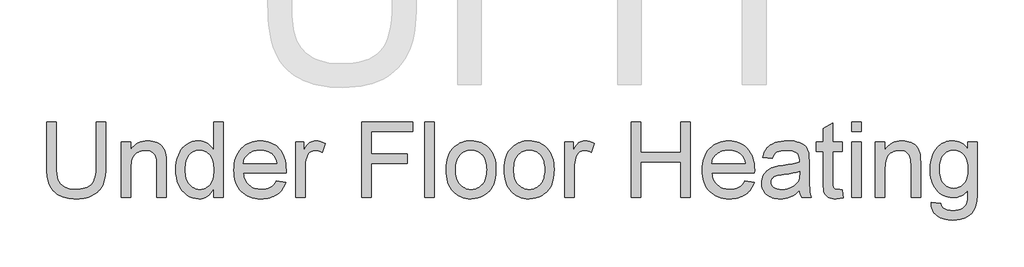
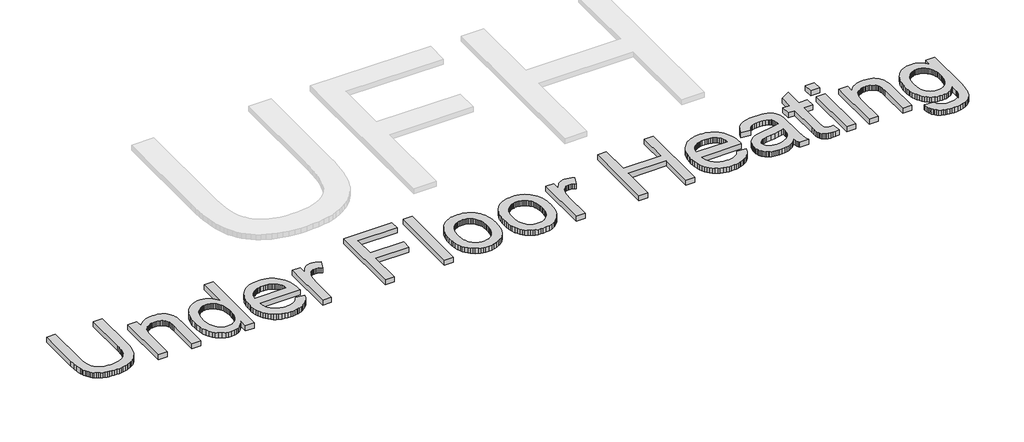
# One storey, part 26 of 26: 1 proxy.
"""IFC4 building model written with IfcOpenShell, lengths in millimetres."""

from ifc_helpers import new_model, si_unit, origin, origin_with_axes, place, context, project, spatial, polyline, outline, extrude, element, save

model = new_model("IFC4")

# Units and contexts
model_context = context("Model", 3, world=origin())
ifc_project = project(units=[si_unit("LENGTHUNIT", "METRE", prefix="MILLI")], contexts=[model_context])

# Site, building, storey
site = spatial("IfcSite", under=ifc_project)
building = spatial("IfcBuilding", under=site)
storey = spatial("IfcBuildingStorey", under=building, Name="Superpipe UFH", Elevation=0.0)

# Proxy
placement = place(None, origin())
element("IfcBuildingElementProxy", 1, Name="2000mm Arial", ObjectType="2000mm Arial", at=placement, inside=storey, context=model_context, shape_type="SweptSolid", body=[
    extrude(outline(polyline([(704.812307, 50255.293081), (955.9530823, 50255.293081), (955.9530823, 49096.2195415), (951.6917826, 48952.6995782), (938.9078832, 48824.7839428), (917.6013843, 48712.4726353), (903.7521601, 48662.1686046), (887.7722859, 48615.7656558), (869.0179684, 48572.3479162), (846.8454139, 48530.9995128), (821.2546226, 48491.7204456), (792.2455945, 48454.5107146), (759.8183295, 48419.3703199), (723.9728275, 48386.2992613), (684.7090888, 48355.297539), (642.0271131, 48326.365153), (595.903908, 48300.2110424), (546.3164807, 48277.5441465), (493.2648313, 48258.3644654), (436.7489598, 48242.6719991), (376.7688662, 48230.4667474), (313.3245504, 48221.7487106), (246.4160126, 48216.5178885), (176.0432526, 48214.7742811), (107.4984062, 48216.2917943), (42.1495347, 48220.844334), (-20.0033619, 48228.4319002), (-78.9602838, 48239.0544928), (-134.7212308, 48252.7121118), (-187.2862029, 48269.4047574), (-236.6552003, 48289.1324294), (-282.8282228, 48311.8951278), (-325.8091025, 48337.5357365), (-365.6016717, 48365.897139), (-402.2059302, 48396.9793355), (-435.6218781, 48430.7823259), (-465.8495154, 48467.3061103), (-492.888842, 48506.5506885), (-516.739858, 48548.5160607), (-537.4025634, 48593.2022268), (-555.2793291, 48641.352615), (-570.7725261, 48693.7106536), (-594.6082137, 48811.0496816), (-608.9096262, 48945.2193109), (-613.6767638, 49096.2195415), (-613.6767638, 50255.293081), (-362.5359884, 50255.293081), (-362.5359884, 49105.0487094), (-359.4396483, 48983.6323226), (-350.1506279, 48879.3531054), (-334.6689272, 48792.2110578), (-312.9945464, 48722.2061798), (-283.7785846, 48664.2800939), (-245.6721412, 48613.3744229), (-198.6752164, 48569.4891665), (-142.7878099, 48532.6243249), (-79.0829111, 48503.43902), (-8.633509, 48482.5923736), (68.5603963, 48470.0843857), (152.4988049, 48465.9150565), (224.3814139, 48467.9767285), (290.9144056, 48474.1617445), (352.0977799, 48484.4701046), (407.9315369, 48498.9018087), (458.4156765, 48517.4568568), (503.5501988, 48540.135249), (543.3351037, 48566.9369852), (577.7703913, 48597.8620654), (607.5458403, 48634.6502649), (633.3512294, 48679.041359), (655.1865587, 48731.0353477), (673.051828, 48790.6322309), (686.9470376, 48857.8320087), (696.8721872, 48932.634681), (702.827277, 49015.0402479), (704.812307, 49105.0487094), (704.812307, 50255.293081)])), origin_with_axes(), (0.0, 0.0, 1.0), 150.0),
    extrude(outline(polyline([(1364.0568423, 48246.166878), (1364.0568423, 49721.6189333), (1615.1976177, 49721.6189333), (1615.1976177, 49515.605016), (1656.6303274, 49571.2471678), (1702.4469642, 49619.470366), (1752.6475281, 49660.2746106), (1807.2320192, 49693.6599017), (1866.2004373, 49719.6262392), (1929.5527826, 49738.1736231), (1997.2890549, 49749.3020535), (2069.4092544, 49753.0115303), (2132.6083155, 49750.022489), (2193.2015458, 49741.0553654), (2251.1889453, 49726.1101594), (2306.570514, 49705.1868709), (2357.2462588, 49679.4044744), (2401.1161867, 49649.8819443), (2438.1802977, 49616.6192805), (2468.4385918, 49579.6164832), (2493.2859549, 49538.9195375), (2514.1172729, 49494.5744286), (2530.9325458, 49446.5811567), (2543.7317735, 49394.9397216), (2553.6645874, 49299.6582849), (2556.9755253, 49152.1376048), (2556.9755253, 48246.166878), (2305.83475, 48246.166878), (2305.83475, 49118.2924612), (2304.0259968, 49187.9141288), (2298.5997374, 49248.1548055), (2289.5559717, 49299.0144914), (2276.8946997, 49340.4931863), (2259.6502312, 49375.4266475), (2236.8568759, 49406.6506318), (2208.5146338, 49434.1651394), (2174.623505, 49457.9701701), (2136.3484491, 49477.176676), (2094.8544257, 49490.8956087), (2050.1414349, 49499.1269683), (2002.2094766, 49501.8707549), (1963.4017582, 49500.330249), (1925.9506047, 49495.7087315), (1889.856016, 49488.0062022), (1855.1179922, 49477.2226612), (1821.7365333, 49463.3581085), (1789.7116392, 49446.4125441), (1759.0433099, 49426.385968), (1729.7315455, 49403.2783802), (1702.8876562, 49375.8635073), (1679.6229521, 49342.9150761), (1659.9374333, 49304.4330866), (1643.8310997, 49260.4175387), (1631.3039513, 49210.8684325), (1622.3559882, 49155.7857679), (1616.9872103, 49095.169545), (1615.1976177, 49029.0197637), (1615.1976177, 48246.166878), (1364.0568423, 48246.166878)])), origin_with_axes(), (0.0, 0.0, 1.0), 150.0),
    extrude(outline(polyline([(3812.6794022, 48246.166878), (3812.6794022, 48483.0828829), (3777.0944834, 48420.1980544), (3737.5395047, 48365.6978696), (3694.0144661, 48319.5823287), (3646.5193677, 48281.8514315), (3595.0542094, 48252.5051782), (3539.6189913, 48231.5435687), (3480.2137133, 48218.966603), (3416.8383754, 48214.7742811), (3333.9422992, 48220.844334), (3254.4797882, 48239.0544928), (3178.4508425, 48269.4047574), (3105.8554622, 48311.8951278), (3038.9622527, 48365.2533455), (2980.0398198, 48428.207152), (2929.0881635, 48500.7565471), (2886.1072837, 48582.9015309), (2851.9862286, 48673.078605), (2827.6140465, 48769.7242708), (2812.9907372, 48872.8385284), (2808.1163007, 48982.4213777), (2812.6075267, 49089.9962044), (2826.0812048, 49192.4819969), (2848.5373349, 49289.8787552), (2879.9759171, 49382.1864791), (2920.3816229, 49466.7073675), (2943.941399, 49505.0360729), (2969.7391239, 49540.743619), (2997.7747977, 49573.830006), (3028.0484202, 49604.2952337), (3060.5599915, 49632.1393022), (3095.3095116, 49657.3622115), (3169.1464937, 49699.2087885), (3247.183462, 49729.0992006), (3329.4204163, 49747.0334478), (3415.8573568, 49753.0115303), (3479.0717463, 49748.7349021), (3538.7299431, 49735.9050175), (3594.8319474, 49714.5218765), (3647.3777591, 49684.5854792), (3695.7848982, 49647.8126081), (3739.4708852, 49605.9200459), (3778.4357198, 49558.9077926), (3812.6794022, 49506.7758482), (3812.6794022, 50255.293081), (4063.8201776, 50255.293081), (4063.8201776, 48246.166878), (3812.6794022, 48246.166878)]), holes=[polyline([(3059.2570761, 48983.4023963), (3061.0275082, 48920.4600862), (3066.3388045, 48861.6181275), (3075.190965, 48806.8765202), (3087.5839897, 48756.2352643), (3103.5178786, 48709.6943598), (3122.9926318, 48667.2538067), (3146.0082491, 48628.9136051), (3172.5647306, 48594.6737548), (3201.5277735, 48564.4959349), (3231.763075, 48538.3418243), (3263.270635, 48516.211423), (3296.0504537, 48498.104731), (3330.1025308, 48484.0217484), (3365.4268666, 48473.9624751), (3402.0234609, 48467.9269111), (3439.8923138, 48465.9150565), (3478.033246, 48467.8349406), (3514.7103145, 48473.5945931), (3549.9235193, 48483.1940139), (3583.6728602, 48496.6332031), (3615.9583374, 48513.9121605), (3646.7799508, 48535.0308863), (3676.1377004, 48559.9893804), (3704.0315863, 48588.7876429), (3729.4959182, 48621.5329725), (3751.5650058, 48658.3326684), (3770.2388491, 48699.1867303), (3785.5174482, 48744.0951585), (3797.4008031, 48793.0579528), (3805.8889137, 48846.0751132), (3810.9817801, 48903.1466398), (3812.6794022, 48964.2725326), (3810.9511233, 49031.3726757), (3805.7662864, 49093.8589654), (3797.1248916, 49151.7314018), (3785.0269389, 49204.9899848), (3769.4724283, 49253.6347144), (3750.4613598, 49297.6655907), (3727.9937333, 49337.0826137), (3702.069549, 49371.8857833), (3673.6161759, 49402.351011), (3643.5609834, 49428.7542083), (3611.9039712, 49451.0953753), (3578.6451396, 49469.374512), (3543.7844885, 49483.5916182), (3507.3220178, 49493.7466942), (3469.2577276, 49499.8397397), (3429.5916179, 49501.8707549), (3390.80306, 49499.9202139), (3353.6546427, 49494.0685909), (3318.146366, 49484.3158859), (3284.2782298, 49470.662099), (3252.0502342, 49453.10723), (3221.4623791, 49431.6512791), (3192.5146646, 49406.2942461), (3165.2070907, 49377.0361312), (3140.375056, 49343.5780301), (3118.8539593, 49305.6210389), (3100.6438006, 49263.1651574), (3085.7445797, 49216.2103856), (3074.1562969, 49164.7567237), (3065.878952, 49108.8041715), (3060.9125451, 49048.352729), (3059.2570761, 48983.4023963)])]), origin_with_axes(), (0.0, 0.0, 1.0), 150.0),
    extrude(outline(polyline([(5473.5439831, 48685.6632349), (5719.7796652, 48654.270638), (5702.5543572, 48603.4952585), (5682.0257755, 48555.6476065), (5658.19392, 48510.727682), (5631.0587907, 48468.7354851), (5600.6203877, 48429.6710157), (5566.878711, 48393.5342739), (5529.8337605, 48360.3252596), (5489.4855362, 48330.0439729), (5446.0333077, 48303.0276389), (5399.6763442, 48279.6134827), (5350.4146457, 48259.8015045), (5298.2482124, 48243.591704), (5243.1770441, 48230.9840815), (5185.201141, 48221.9786368), (5124.3205029, 48216.57537), (5060.5351299, 48214.7742811), (4980.4978033, 48217.8821175), (4904.7064481, 48227.2056268), (4833.1610642, 48242.744809), (4765.8616517, 48264.4996641), (4702.8082106, 48292.470192), (4644.0007408, 48326.6563929), (4589.4392424, 48367.0582666), (4539.1237154, 48413.6758131), (4493.9432078, 48465.9035602), (4454.786768, 48523.1360351), (4421.6543958, 48585.3732381), (4394.5460913, 48652.615169), (4373.4618544, 48724.8618279), (4358.4016852, 48802.1132148), (4349.3655837, 48884.3693297), (4346.3535499, 48971.6301725), (4349.3962406, 49061.860896), (4358.5243126, 49146.8952864), (4373.7377659, 49226.7333435), (4395.0366006, 49301.3750675), (4422.4208166, 49370.8204583), (4455.890414, 49435.0695159), (4495.4453926, 49494.1222404), (4541.0857527, 49547.9786316), (4591.5775565, 49596.0332172), (4645.6868666, 49637.6805248), (4703.413683, 49672.9205542), (4764.7580057, 49701.7533056), (4829.7198347, 49724.1787789), (4898.29917, 49740.1969741), (4970.4960115, 49749.8078912), (5046.3103594, 49753.0115303), (5119.6453359, 49749.8155554), (5189.5544112, 49740.2276309), (5256.0375856, 49724.2477568), (5319.0948588, 49701.8759329), (5378.726231, 49673.1121594), (5434.931702, 49637.9564363), (5487.711272, 49596.4087634), (5537.0649409, 49548.4691409), (5581.7281144, 49494.735377), (5620.4361981, 49435.8052799), (5653.189192, 49371.6788496), (5679.9870961, 49302.3560862), (5700.8299104, 49227.8369895), (5715.7176348, 49148.1215597), (5724.6502695, 49063.2097967), (5727.6278144, 48973.1017005), (5726.1562865, 48905.4114134), (4597.4943253, 48905.4114134), (4602.970402, 48853.7469857), (4612.0409925, 48805.1942265), (4624.7060966, 48759.7531359), (4640.9657144, 48717.4237138), (4660.8198458, 48678.2059603), (4684.2684909, 48642.0998753), (4711.3116496, 48609.1054589), (4741.949322, 48579.222711), (4775.3844304, 48552.6662295), (4810.8198972, 48529.6506121), (4848.2557223, 48510.175859), (4887.6919058, 48494.2419701), (4929.1284476, 48481.8489454), (4972.5653478, 48472.9967849), (5018.0026063, 48467.6854886), (5065.4402231, 48465.9150565), (5134.9086065, 48469.1953376), (5199.1040147, 48479.036181), (5258.0264476, 48495.4375866), (5311.6759052, 48518.3995544), (5360.0523876, 48548.5352212), (5403.1558947, 48586.4577235), (5440.9864265, 48632.1670615), (5473.5439831, 48685.6632349)]), holes=[polyline([(4597.4943253, 49156.5521887), (5476.4870391, 49156.5521887), (5463.5805124, 49227.6147275), (5442.5192682, 49289.2349617), (5413.3033064, 49341.4128913), (5375.9326271, 49384.1485164), (5342.8692327, 49411.7396661), (5307.4452623, 49435.6519957), (5269.6607157, 49455.8855055), (5229.515593, 49472.4401953), (5187.0098941, 49485.3160651), (5142.1436191, 49494.513115), (5094.916768, 49500.0313449), (5045.3293407, 49501.8707549), (4957.0223335, 49495.9999714), (4915.6164485, 49488.661492), (4876.0423093, 49478.3876209), (4838.2999158, 49465.178358), (4802.3892682, 49449.0337033), (4768.3103663, 49429.9536569), (4736.0632101, 49407.9382188), (4706.4831984, 49383.4625698), (4680.4057299, 49357.0018909), (4657.8308046, 49328.556182), (4638.7584224, 49298.1254432), (4623.1885834, 49265.7096745), (4611.1212875, 49231.3088758), (4602.5565348, 49194.9230473), (4597.4943253, 49156.5521887)])]), origin_with_axes(), (0.0, 0.0, 1.0), 150.0),
    extrude(outline(polyline([(5978.7685898, 48246.166878), (5978.7685898, 49721.6189333), (6198.5167683, 49721.6189333), (6198.5167683, 49503.3422829), (6239.9034927, 49573.1172346), (6279.6960619, 49629.8936892), (6317.8944757, 49673.6716466), (6354.4987342, 49704.4511069), (6391.1643064, 49725.6962921), (6429.5466612, 49740.8714244), (6469.6457987, 49749.9765038), (6511.4617188, 49753.0115303), (6573.7564034, 49748.1677507), (6636.5415972, 49733.6364118), (6699.8173004, 49709.4175138), (6763.5835129, 49675.5110566), (6679.706418, 49450.3672756), (6635.5605785, 49472.9000478), (6591.4147391, 49488.9948851), (6547.2688997, 49498.6517874), (6503.1230603, 49501.8707549), (6464.6334065, 49498.7744148), (6428.1364469, 49489.4853944), (6393.6321815, 49474.0036937), (6361.1206101, 49452.3293129), (6331.8280063, 49425.1673589), (6306.9806432, 49393.222939), (6286.5785209, 49356.4960531), (6270.6216393, 49314.9867013), (6252.8100194, 49246.4380229), (6240.0874337, 49174.7010338), (6232.4538823, 49099.7757342), (6229.9093652, 49021.6621238), (6229.9093652, 48246.166878), (5978.7685898, 48246.166878)])), origin_with_axes(), (0.0, 0.0, 1.0), 150.0),
    extrude(outline(polyline([(7736.7540174, 48246.166878), (7736.7540174, 50255.293081), (9086.6356851, 50255.293081), (9086.6356851, 50004.1523056), (7987.8947928, 50004.1523056), (7987.8947928, 49407.6929641), (8929.6727005, 49407.6929641), (8929.6727005, 49156.5521887), (7987.8947928, 49156.5521887), (7987.8947928, 48246.166878), (7736.7540174, 48246.166878)])), origin_with_axes(), (0.0, 0.0, 1.0), 150.0),
    extrude(outline(polyline([(9400.5616543, 48246.166878), (9400.5616543, 50255.293081), (9651.7024297, 50255.293081), (9651.7024297, 48246.166878), (9400.5616543, 48246.166878)])), origin_with_axes(), (0.0, 0.0, 1.0), 150.0),
    extrude(outline(polyline([(9965.6283989, 48983.8929057), (9969.0236431, 49082.7381993), (9979.2093759, 49174.9769453), (9996.1855971, 49260.6091439), (10019.9523068, 49339.634795), (10050.5095051, 49412.0538986), (10087.8571918, 49477.8664547), (10131.995367, 49537.0724633), (10182.9240307, 49589.6719244), (10229.5377452, 49627.9546445), (10278.6346631, 49661.133002), (10330.2147845, 49689.2069967), (10384.2781094, 49712.1766288), (10440.8246377, 49730.0418982), (10499.8543695, 49742.8028049), (10561.3673048, 49750.4593489), (10625.3634436, 49753.0115303), (10696.2995229, 49749.9036938), (10763.917, 49740.5801845), (10828.215875, 49725.0410023), (10889.1961478, 49703.2861472), (10946.8578184, 49675.3156193), (11001.2008869, 49641.1294185), (11052.2253532, 49600.7275448), (11099.9312173, 49554.1099982), (11143.0998702, 49502.0125427), (11180.5127027, 49445.1709424), (11212.1697148, 49383.5851971), (11238.0709065, 49317.255307), (11258.2162779, 49246.1812719), (11272.6058288, 49170.363092), (11281.2395594, 49089.8007671), (11284.1174696, 49004.4942974), (11279.0284353, 48870.064085), (11263.7613325, 48750.7783481), (11252.3110054, 48696.8146579), (11238.3161612, 48646.6370866), (11221.7767998, 48600.2456342), (11202.6929213, 48557.6403006), (11157.336137, 48480.768292), (11131.1743622, 48445.7466925), (11102.6903323, 48413.0013628), (11071.8840473, 48382.532303), (11038.7555072, 48354.339513), (11003.304712, 48328.4229929), (10965.5316618, 48304.7827426), (10885.8698814, 48265.4040407), (10802.6212516, 48237.2763965), (10715.7857723, 48220.3998099), (10625.3634436, 48214.7742811), (10553.3083899, 48217.8706212), (10484.7865362, 48227.1596416), (10419.7978824, 48242.6413422), (10358.3424287, 48264.3157231), (10300.420175, 48292.1827842), (10246.0311213, 48326.2425256), (10195.1752676, 48366.4949473), (10147.8526138, 48412.9400492), (10105.1438134, 48465.2099493), (10068.1295198, 48522.9367657), (10036.8097328, 48586.1204984), (10011.1844526, 48654.7611473), (9991.2536791, 48728.8587125), (9977.0174123, 48808.413194), (9968.4756522, 48893.4245917), (9965.6283989, 48983.8929057)]), holes=[polyline([(10216.7691743, 48984.383415), (10218.5855916, 48921.4334407), (10224.0348437, 48862.5684893), (10233.1169304, 48807.788561), (10245.8318519, 48757.0936556), (10262.179608, 48710.4837733), (10282.1601989, 48667.9589139), (10305.7736245, 48629.5190775), (10333.0198847, 48595.1642641), (10363.0175958, 48564.8714811), (10394.8853736, 48538.6177358), (10428.6232182, 48516.4030282), (10464.2311297, 48498.2273584), (10501.7091079, 48484.0907263), (10541.057153, 48473.9931319), (10582.2752649, 48467.9345753), (10625.3634436, 48465.9150565), (10668.221696, 48467.9460716), (10709.2405385, 48474.0391172), (10748.419971, 48484.1941931), (10785.7599935, 48498.4112994), (10821.260606, 48516.690436), (10854.9218086, 48539.031603), (10886.7436011, 48565.4348004), (10916.7259837, 48595.9000281), (10943.972244, 48630.5269209), (10967.5856696, 48669.4151135), (10987.5662604, 48712.5646058), (11003.9140166, 48759.9753979), (11016.6289381, 48811.6474898), (11025.7110248, 48867.5808815), (11031.1602769, 48927.775573), (11032.9766942, 48992.2315642), (11031.1487806, 49053.1122023), (11025.6650396, 49110.1837289), (11016.5254712, 49163.446144), (11003.7300756, 49212.8994477), (10987.2788526, 49258.5436398), (10967.1718023, 49300.3787204), (10943.4089247, 49338.4046896), (10915.9902198, 49372.6215472), (10885.8583851, 49402.9143303), (10853.9561183, 49429.1680756), (10820.2834194, 49451.3827831), (10784.8402885, 49469.558453), (10747.6267254, 49483.6950851), (10708.6427302, 49493.7926794), (10667.8883029, 49499.851236), (10625.3634436, 49501.8707549), (10582.2752649, 49499.8589002), (10541.057153, 49493.8233362), (10501.7091079, 49483.7640629), (10464.2311297, 49469.6810803), (10428.6232182, 49451.5743884), (10394.8853736, 49429.4439871), (10363.0175958, 49403.2898765), (10333.0198847, 49373.1120566), (10305.7736245, 49338.8722063), (10282.1601989, 49300.5320046), (10262.179608, 49258.0914515), (10245.8318519, 49211.550547), (10233.1169304, 49160.9092911), (10224.0348437, 49106.1676838), (10218.5855916, 49047.3257251), (10216.7691743, 48984.383415)])]), origin_with_axes(), (0.0, 0.0, 1.0), 150.0),
    extrude(outline(polyline([(11503.865648, 48983.8929057), (11507.2608923, 49082.7381993), (11517.446625, 49174.9769453), (11534.4228463, 49260.6091439), (11558.189556, 49339.634795), (11588.7467542, 49412.0538986), (11626.0944409, 49477.8664547), (11670.2326162, 49537.0724633), (11721.1612799, 49589.6719244), (11767.7749943, 49627.9546445), (11816.8719123, 49661.133002), (11868.4520337, 49689.2069967), (11922.5153586, 49712.1766288), (11979.0618869, 49730.0418982), (12038.0916187, 49742.8028049), (12099.604554, 49750.4593489), (12163.6006927, 49753.0115303), (12234.536772, 49749.9036938), (12302.1542492, 49740.5801845), (12366.4531241, 49725.0410023), (12427.4333969, 49703.2861472), (12485.0950676, 49675.3156193), (12539.4381361, 49641.1294185), (12590.4626024, 49600.7275448), (12638.1684665, 49554.1099982), (12681.3371194, 49502.0125427), (12718.7499519, 49445.1709424), (12750.406964, 49383.5851971), (12776.3081557, 49317.255307), (12796.453527, 49246.1812719), (12810.843078, 49170.363092), (12819.4768086, 49089.8007671), (12822.3547188, 49004.4942974), (12817.2656845, 48870.064085), (12801.9985817, 48750.7783481), (12790.5482546, 48696.8146579), (12776.5534104, 48646.6370866), (12760.014049, 48600.2456342), (12740.9301705, 48557.6403006), (12695.5733862, 48480.768292), (12669.4116114, 48445.7466925), (12640.9275815, 48413.0013628), (12610.1212965, 48382.532303), (12576.9927564, 48354.339513), (12541.5419612, 48328.4229929), (12503.7689109, 48304.7827426), (12424.1071306, 48265.4040407), (12340.8585007, 48237.2763965), (12254.0230215, 48220.3998099), (12163.6006927, 48214.7742811), (12091.545639, 48217.8706212), (12023.0237853, 48227.1596416), (11958.0351316, 48242.6413422), (11896.5796779, 48264.3157231), (11838.6574242, 48292.1827842), (11784.2683705, 48326.2425256), (11733.4125167, 48366.4949473), (11686.089863, 48412.9400492), (11643.3810626, 48465.2099493), (11606.366769, 48522.9367657), (11575.046982, 48586.1204984), (11549.4217018, 48654.7611473), (11529.4909283, 48728.8587125), (11515.2546615, 48808.413194), (11506.7129014, 48893.4245917), (11503.865648, 48983.8929057)]), holes=[polyline([(11755.0064234, 48984.383415), (11756.8228408, 48921.4334407), (11762.2720928, 48862.5684893), (11771.3541796, 48807.788561), (11784.069101, 48757.0936556), (11800.4168572, 48710.4837733), (11820.3974481, 48667.9589139), (11844.0108736, 48629.5190775), (11871.2571339, 48595.1642641), (11901.2548449, 48564.8714811), (11933.1226228, 48538.6177358), (11966.8604674, 48516.4030282), (12002.4683788, 48498.2273584), (12039.9463571, 48484.0907263), (12079.2944022, 48473.9931319), (12120.512514, 48467.9345753), (12163.6006927, 48465.9150565), (12206.4589452, 48467.9460716), (12247.4777876, 48474.0391172), (12286.6572201, 48484.1941931), (12323.9972426, 48498.4112994), (12359.4978552, 48516.690436), (12393.1590577, 48539.031603), (12424.9808503, 48565.4348004), (12454.9632329, 48595.9000281), (12482.2094932, 48630.5269209), (12505.8229187, 48669.4151135), (12525.8035096, 48712.5646058), (12542.1512658, 48759.9753979), (12554.8661872, 48811.6474898), (12563.948274, 48867.5808815), (12569.397526, 48927.775573), (12571.2139434, 48992.2315642), (12569.3860297, 49053.1122023), (12563.9022887, 49110.1837289), (12554.7627204, 49163.446144), (12541.9673248, 49212.8994477), (12525.5161018, 49258.5436398), (12505.4090515, 49300.3787204), (12481.6461739, 49338.4046896), (12454.2274689, 49372.6215472), (12424.0956343, 49402.9143303), (12392.1933675, 49429.1680756), (12358.5206686, 49451.3827831), (12323.0775376, 49469.558453), (12285.8639746, 49483.6950851), (12246.8799794, 49493.7926794), (12206.1255521, 49499.851236), (12163.6006927, 49501.8707549), (12120.512514, 49499.8589002), (12079.2944022, 49493.8233362), (12039.9463571, 49483.7640629), (12002.4683788, 49469.6810803), (11966.8604674, 49451.5743884), (11933.1226228, 49429.4439871), (11901.2548449, 49403.2898765), (11871.2571339, 49373.1120566), (11844.0108736, 49338.8722063), (11820.3974481, 49300.5320046), (11800.4168572, 49258.0914515), (11784.069101, 49211.550547), (11771.3541796, 49160.9092911), (11762.2720928, 49106.1676838), (11756.8228408, 49047.3257251), (11755.0064234, 48984.383415)])]), origin_with_axes(), (0.0, 0.0, 1.0), 150.0),
    extrude(outline(polyline([(13104.8880911, 48246.166878), (13104.8880911, 49721.6189333), (13324.6362695, 49721.6189333), (13324.6362695, 49503.3422829), (13366.022994, 49573.1172346), (13405.8155631, 49629.8936892), (13444.0139769, 49673.6716466), (13480.6182355, 49704.4511069), (13517.2838076, 49725.6962921), (13555.6661625, 49740.8714244), (13595.7653, 49749.9765038), (13637.5812201, 49753.0115303), (13699.8759046, 49748.1677507), (13762.6610984, 49733.6364118), (13825.9368016, 49709.4175138), (13889.7030141, 49675.5110566), (13805.8259192, 49450.3672756), (13761.6800798, 49472.9000478), (13717.5342404, 49488.9948851), (13673.3884009, 49498.6517874), (13629.2425615, 49501.8707549), (13590.7529078, 49498.7744148), (13554.2559482, 49489.4853944), (13519.7516827, 49474.0036937), (13487.2401114, 49452.3293129), (13457.9475075, 49425.1673589), (13433.1001444, 49393.222939), (13412.6980221, 49356.4960531), (13396.7411406, 49314.9867013), (13378.9295206, 49246.4380229), (13366.206935, 49174.7010338), (13358.5733836, 49099.7757342), (13356.0288664, 49021.6621238), (13356.0288664, 48246.166878), (13104.8880911, 48246.166878)])), origin_with_axes(), (0.0, 0.0, 1.0), 150.0),
    extrude(outline(polyline([(14862.8735187, 48246.166878), (14862.8735187, 50255.293081), (15114.014294, 50255.293081), (15114.014294, 49439.085561), (16181.3625894, 49439.085561), (16181.3625894, 50255.293081), (16432.5033648, 50255.293081), (16432.5033648, 48246.166878), (16181.3625894, 48246.166878), (16181.3625894, 49187.9447857), (15114.014294, 49187.9447857), (15114.014294, 48246.166878), (14862.8735187, 48246.166878)])), origin_with_axes(), (0.0, 0.0, 1.0), 150.0),
    extrude(outline(polyline([(17873.6197672, 48685.6632349), (18119.8554493, 48654.270638), (18102.6301413, 48603.4952585), (18082.1015596, 48555.6476065), (18058.2697041, 48510.727682), (18031.1345748, 48468.7354851), (18000.6961718, 48429.6710157), (17966.9544951, 48393.5342739), (17929.9095446, 48360.3252596), (17889.5613203, 48330.0439729), (17846.1090917, 48303.0276389), (17799.7521283, 48279.6134827), (17750.4904298, 48259.8015045), (17698.3239965, 48243.591704), (17643.2528282, 48230.9840815), (17585.2769251, 48221.9786368), (17524.396287, 48216.57537), (17460.6109139, 48214.7742811), (17380.5735874, 48217.8821175), (17304.7822322, 48227.2056268), (17233.2368483, 48242.744809), (17165.9374358, 48264.4996641), (17102.8839947, 48292.470192), (17044.0765249, 48326.6563929), (16989.5150265, 48367.0582666), (16939.1994995, 48413.6758131), (16894.0189919, 48465.9035602), (16854.8625521, 48523.1360351), (16821.7301799, 48585.3732381), (16794.6218753, 48652.615169), (16773.5376385, 48724.8618279), (16758.4774693, 48802.1132148), (16749.4413678, 48884.3693297), (16746.429334, 48971.6301725), (16749.4720246, 49061.860896), (16758.6000967, 49146.8952864), (16773.81355, 49226.7333435), (16795.1123847, 49301.3750675), (16822.4966007, 49370.8204583), (16855.966198, 49435.0695159), (16895.5211767, 49494.1222404), (16941.1615368, 49547.9786316), (16991.6533406, 49596.0332172), (17045.7626507, 49637.6805248), (17103.4894671, 49672.9205542), (17164.8337898, 49701.7533056), (17229.7956188, 49724.1787789), (17298.3749541, 49740.1969741), (17370.5717956, 49749.8078912), (17446.3861435, 49753.0115303), (17519.7211199, 49749.8155554), (17589.6301953, 49740.2276309), (17656.1133697, 49724.2477568), (17719.1706429, 49701.8759329), (17778.802015, 49673.1121594), (17835.0074861, 49637.9564363), (17887.7870561, 49596.4087634), (17937.140725, 49548.4691409), (17981.8038985, 49494.735377), (18020.5119822, 49435.8052799), (18053.2649761, 49371.6788496), (18080.0628802, 49302.3560862), (18100.9056945, 49227.8369895), (18115.7934189, 49148.1215597), (18124.7260536, 49063.2097967), (18127.7035985, 48973.1017005), (18126.2320706, 48905.4114134), (16997.5701094, 48905.4114134), (17003.0461861, 48853.7469857), (17012.1167766, 48805.1942265), (17024.7818807, 48759.7531359), (17041.0414984, 48717.4237138), (17060.8956299, 48678.2059603), (17084.344275, 48642.0998753), (17111.3874337, 48609.1054589), (17142.0251061, 48579.222711), (17175.4602145, 48552.6662295), (17210.8956813, 48529.6506121), (17248.3315064, 48510.175859), (17287.7676899, 48494.2419701), (17329.2042317, 48481.8489454), (17372.6411319, 48472.9967849), (17418.0783904, 48467.6854886), (17465.5160072, 48465.9150565), (17534.9843906, 48469.1953376), (17599.1797988, 48479.036181), (17658.1022317, 48495.4375866), (17711.7516893, 48518.3995544), (17760.1281717, 48548.5352212), (17803.2316788, 48586.4577235), (17841.0622106, 48632.1670615), (17873.6197672, 48685.6632349)]), holes=[polyline([(16997.5701094, 49156.5521887), (17876.5628232, 49156.5521887), (17863.6562965, 49227.6147275), (17842.5950523, 49289.2349617), (17813.3790905, 49341.4128913), (17776.0084111, 49384.1485164), (17742.9450168, 49411.7396661), (17707.5210464, 49435.6519957), (17669.7364998, 49455.8855055), (17629.5913771, 49472.4401953), (17587.0856782, 49485.3160651), (17542.2194032, 49494.513115), (17494.9925521, 49500.0313449), (17445.4051248, 49501.8707549), (17357.0981176, 49495.9999714), (17315.6922326, 49488.661492), (17276.1180934, 49478.3876209), (17238.3756999, 49465.178358), (17202.4650523, 49449.0337033), (17168.3861503, 49429.9536569), (17136.1389942, 49407.9382188), (17106.5589825, 49383.4625698), (17080.481514, 49357.0018909), (17057.9065887, 49328.556182), (17038.8342065, 49298.1254432), (17023.2643675, 49265.7096745), (17011.1970716, 49231.3088758), (17002.6323189, 49194.9230473), (16997.5701094, 49156.5521887)])]), origin_with_axes(), (0.0, 0.0, 1.0), 150.0),
    extrude(outline(polyline([(19320.6222816, 48434.5224595), (19261.0713836, 48378.6350531), (19200.6314375, 48331.6381282), (19139.3024432, 48293.5316849), (19077.0844008, 48264.3157231), (19013.272203, 48242.6413422), (18947.1607428, 48227.1596416), (18878.7500201, 48217.8706212), (18808.0400349, 48214.7742811), (18750.4090211, 48216.6366837), (18696.2192368, 48222.2238915), (18645.470682, 48231.5359045), (18598.1633567, 48244.5727227), (18554.2972609, 48261.3343461), (18513.8723946, 48281.8207747), (18476.8887577, 48306.0320085), (18443.3463504, 48333.9680475), (18413.5134199, 48364.8011572), (18387.6582134, 48397.7036032), (18365.780731, 48432.6753854), (18347.8809726, 48469.7165037), (18333.9589384, 48508.8269584), (18324.0146282, 48550.0067492), (18318.0480421, 48593.2558763), (18316.0591801, 48638.5743395), (18319.0635497, 48691.8252583), (18328.0766586, 48742.6849442), (18343.0985067, 48791.153397), (18364.1290941, 48837.2306169), (18390.0494463, 48879.9049284), (18419.740589, 48918.1646559), (18453.2025222, 48952.0097994), (18490.4352458, 48981.440359), (18530.7643095, 49007.0081577), (18573.515263, 49029.2650184), (18618.6881063, 49048.2109412), (18666.2828395, 49063.845926), (18756.659183, 49083.098417), (18883.5784713, 49101.6151441), (19021.7181605, 49120.6223805), (19140.3601039, 49141.3463996), (19239.5043016, 49163.7872013), (19319.1507536, 49187.9447857), (19320.6222816, 49243.8628489), (19316.2996681, 49304.7473191), (19303.3318278, 49355.9442301), (19281.7187606, 49397.4535819), (19267.6702669, 49414.5754231), (19251.4604665, 49429.2753745), (19226.7357307, 49446.2899168), (19199.1599095, 49461.0358534), (19135.4550107, 49483.7219098), (19060.34577, 49497.3335436), (18973.8321874, 49501.8707549), (18893.3886578, 49498.8510568), (18824.2268427, 49489.7919627), (18766.3467422, 49474.6934725), (18719.7483561, 49453.5555862), (18681.4579718, 49424.7228348), (18648.5018764, 49386.5397494), (18620.8800699, 49339.0063299), (18598.5925524, 49282.1225764), (18347.451777, 49313.5151734), (18366.5663123, 49385.8652991), (18391.0457934, 49450.8577849), (18420.8902203, 49508.4926308), (18456.0995929, 49558.7698368), (18498.1914245, 49602.7010784), (18548.6832284, 49641.2980311), (18607.5750044, 49674.5606948), (18674.8667527, 49702.4890696), (18749.1942441, 49724.5926461), (18829.1932497, 49740.3809151), (18914.8637693, 49749.8538765), (19006.205803, 49753.0115303), (19095.4938289, 49750.2217585), (19175.9833438, 49741.8524431), (19247.6743476, 49727.9035841), (19310.5668404, 49708.3751815), (19365.1819882, 49684.6314644), (19412.0409574, 49658.0366618), (19451.1437478, 49628.5907738), (19482.4903594, 49596.2938003), (19507.9048739, 49560.3486637), (19529.2113728, 49519.9582863), (19546.4098561, 49475.1226681), (19559.5003238, 49425.8418092), (19568.6973736, 49339.0216583), (19571.7630569, 49206.0936308), (19571.7630569, 48893.6391895), (19574.9513676, 48621.4678268), (19584.5162994, 48457.3311432), (19592.4257623, 48402.8386227), (19603.4009085, 48349.480405), (19617.441738, 48297.2564901), (19634.5482508, 48246.166878), (19383.4074754, 48246.166878), (19361.089301, 48288.1054255), (19343.1857106, 48333.4775382), (19329.6967041, 48382.2832162), (19320.6222816, 48434.5224595)]), holes=[polyline([(19320.6222816, 48936.8040103), (19244.7159632, 48915.0683157), (19151.8870731, 48894.9880902), (19042.1356112, 48876.5633336), (18915.4615775, 48859.794046), (18785.1700376, 48840.5415549), (18736.7169131, 48830.0875749), (18699.392219, 48819.0817718), (18669.4558217, 48806.4818135), (18643.1675874, 48791.2453675), (18620.5275163, 48773.3724339), (18601.5356083, 48752.8630127), (18586.5137602, 48730.4528678), (18575.7838687, 48706.8777633), (18569.3459337, 48682.1376991), (18567.1999554, 48656.2326753), (18571.8751225, 48617.206527), (18585.9006235, 48581.5526303), (18609.2764586, 48549.2709852), (18642.0026278, 48520.3615917), (18683.7725627, 48496.5412326), (18734.2796949, 48479.5266903), (18793.5240246, 48469.3179649), (18861.5055516, 48465.9150565), (18930.9126213, 48469.6705185), (18996.3956165, 48480.9369046), (19057.954537, 48499.7142148), (19115.5893829, 48526.002449), (19167.5833716, 48557.6249722), (19212.2197203, 48592.4051491), (19249.4984292, 48630.3429799), (19279.4194981, 48671.4384644), (19296.8019224, 48708.226664), (19309.2179397, 48752.8630127), (19316.6675501, 48805.3475107), (19319.1507536, 48865.6801579), (19320.6222816, 48936.8040103)])]), origin_with_axes(), (0.0, 0.0, 1.0), 150.0),
    extrude(outline(polyline([(20450.7557707, 48455.6143606), (20482.1483677, 48238.8092381), (20382.6976016, 48220.7830203), (20294.2832955, 48214.7742811), (20230.1798578, 48217.3801119), (20173.7406284, 48225.1976043), (20124.9656072, 48238.2267583), (20083.8547942, 48256.4675739), (20049.3352003, 48278.9390324), (20020.3338364, 48304.6601152), (19996.8507024, 48333.6308224), (19978.8857983, 48365.8511538), (19965.5807328, 48409.0466314), (19956.0771146, 48470.9427771), (19950.3749436, 48551.5395908), (19948.47422, 48650.8370727), (19948.47422, 49470.478158), (19760.1186385, 49470.478158), (19760.1186385, 49721.6189333), (19948.47422, 49721.6189333), (19948.47422, 50080.1812513), (20199.6149954, 50227.8245587), (20199.6149954, 49721.6189333), (20450.7557707, 49721.6189333), (20450.7557707, 49470.478158), (20199.6149954, 49470.478158), (20199.6149954, 48658.1947126), (20202.9259333, 48575.543891), (20207.0646058, 48547.6461731), (20212.8587472, 48528.7002503), (20230.2105146, 48502.7645696), (20255.7783133, 48482.8376282), (20292.0146898, 48470.1456994), (20341.3721908, 48465.9150565), (20389.3194776, 48463.3398825), (20450.7557707, 48455.6143606)])), origin_with_axes(), (0.0, 0.0, 1.0), 150.0),
    extrude(outline(polyline([(20701.8965461, 50004.1523056), (20701.8965461, 50255.293081), (20953.0373215, 50255.293081), (20953.0373215, 50004.1523056), (20701.8965461, 50004.1523056)])), origin_with_axes(), (0.0, 0.0, 1.0), 150.0),
    extrude(outline(polyline([(20701.8965461, 48246.166878), (20701.8965461, 49721.6189333), (20953.0373215, 49721.6189333), (20953.0373215, 48246.166878), (20701.8965461, 48246.166878)])), origin_with_axes(), (0.0, 0.0, 1.0), 150.0),
    extrude(outline(polyline([(21329.7484846, 48246.166878), (21329.7484846, 49721.6189333), (21580.8892599, 49721.6189333), (21580.8892599, 49515.605016), (21622.3219696, 49571.2471678), (21668.1386065, 49619.470366), (21718.3391704, 49660.2746106), (21772.9236614, 49693.6599017), (21831.8920796, 49719.6262392), (21895.2444248, 49738.1736231), (21962.9806972, 49749.3020535), (22035.1008966, 49753.0115303), (22098.2999577, 49750.022489), (22158.893188, 49741.0553654), (22216.8805875, 49726.1101594), (22272.2621562, 49705.1868709), (22322.937901, 49679.4044744), (22366.807829, 49649.8819443), (22403.87194, 49616.6192805), (22434.1302341, 49579.6164832), (22458.9775972, 49538.9195375), (22479.8089151, 49494.5744286), (22496.624188, 49446.5811567), (22509.4234158, 49394.9397216), (22519.3562296, 49299.6582849), (22522.6671676, 49152.1376048), (22522.6671676, 48246.166878), (22271.5263922, 48246.166878), (22271.5263922, 49118.2924612), (22269.7176391, 49187.9141288), (22264.2913796, 49248.1548055), (22255.2476139, 49299.0144914), (22242.5863419, 49340.4931863), (22225.3418734, 49375.4266475), (22202.5485181, 49406.6506318), (22174.2062761, 49434.1651394), (22140.3151473, 49457.9701701), (22102.0400913, 49477.176676), (22060.546068, 49490.8956087), (22015.8330771, 49499.1269683), (21967.9011189, 49501.8707549), (21929.0934005, 49500.330249), (21891.6422469, 49495.7087315), (21855.5476583, 49488.0062022), (21820.8096345, 49477.2226612), (21787.4281755, 49463.3581085), (21755.4032814, 49446.4125441), (21724.7349521, 49426.385968), (21695.4231878, 49403.2783802), (21668.5792984, 49375.8635073), (21645.3145943, 49342.9150761), (21625.6290755, 49304.4330866), (21609.5227419, 49260.4175387), (21596.9955935, 49210.8684325), (21588.0476304, 49155.7857679), (21582.6788526, 49095.169545), (21580.8892599, 49029.0197637), (21580.8892599, 48246.166878), (21329.7484846, 48246.166878)])), origin_with_axes(), (0.0, 0.0, 1.0), 150.0),
    extrude(outline(polyline([(22805.2005399, 48120.5964903), (23056.3413153, 48089.2038934), (23066.9485794, 48046.897464), (23084.0550922, 48010.7224011), (23107.6608536, 47980.6787048), (23137.7658635, 47956.7663751), (23186.479571, 47932.3022225), (23243.3479961, 47914.8278277), (23308.3711388, 47904.3431908), (23381.548999, 47900.8483119), (23459.9691776, 47904.8030433), (23528.9470517, 47916.6672377), (23588.4826213, 47936.4408949), (23638.5758863, 47964.124015), (23680.2691791, 47998.9501773), (23714.604832, 48040.1529607), (23741.5828449, 48087.7323654), (23761.203218, 48141.6883914), (23769.2659651, 48186.1101423), (23774.8148518, 48249.7230706), (23778.3710445, 48434.5224595), (23737.7967261, 48390.3766201), (23694.8005179, 48352.1168926), (23649.3824199, 48319.743277), (23601.5424321, 48293.2557734), (23551.2805545, 48272.6543817), (23498.5967871, 48257.9391019), (23443.4911299, 48249.109934), (23385.9635829, 48246.166878), (23315.0581605, 48249.5927791), (23248.2684178, 48259.8704823), (23185.594355, 48276.9999877), (23127.035972, 48300.9812953), (23072.5932688, 48331.814405), (23022.2662454, 48369.4993169), (22976.0549019, 48414.0360309), (22933.9592382, 48465.4245471), (22896.4237784, 48521.6031935), (22863.8930465, 48580.510298), (22836.3670427, 48642.1458606), (22813.8457668, 48706.5098813), (22796.3292188, 48773.6023602), (22783.8173989, 48843.4232972), (22776.3103069, 48915.9726923), (22773.807943, 48991.2505456), (22778.299169, 49094.6713715), (22791.7728471, 49194.0148386), (22814.2289772, 49289.2809469), (22845.6675593, 49380.4696965), (22885.6134127, 49464.5460608), (22933.5913562, 49538.4750134), (22960.5923618, 49571.6342103), (22989.60139, 49602.2565543), (23020.6184407, 49630.3420454), (23053.643514, 49655.8906835), (23088.4198588, 49678.653382), (23124.6907243, 49698.381054), (23162.4561103, 49715.0736995), (23201.716017, 49728.7313186), (23242.4704443, 49739.3539112), (23284.7193922, 49746.9414773), (23373.7008498, 49753.0115303), (23433.7805781, 49749.577965), (23491.1471767, 49739.2772691), (23545.8006456, 49722.1094427), (23597.7409848, 49698.0744856), (23646.9681943, 49667.172398), (23693.4822741, 49629.4031799), (23737.2832241, 49584.7668311), (23778.3710445, 49533.2633518), (23778.3710445, 49721.6189333), (24029.5118198, 49721.6189333), (24029.5118198, 48447.7662114), (24025.2198632, 48288.1514107), (24012.3439934, 48153.6445562), (24002.687091, 48095.8066088), (23990.8842103, 48044.2456479), (23976.9353513, 47998.9616736), (23960.8405141, 47959.9546858), (23921.492469, 47891.9731587), (23872.1196396, 47831.5025558), (23812.7220258, 47778.5428769), (23743.2996276, 47733.0941221), (23705.0054111, 47713.5503911), (23664.5575522, 47696.6124909), (23577.2009068, 47670.5541829), (23481.2296913, 47654.9191981), (23376.6439057, 47649.7075365), (23313.5713041, 47651.5431144), (23253.6027067, 47657.049848), (23196.7381138, 47666.2277373), (23142.9775251, 47679.0767824), (23092.3209408, 47695.5969833), (23044.7683608, 47715.7883399), (23000.3197852, 47739.6508522), (22958.9752139, 47767.1845203), (22921.7539866, 47798.4046725), (22889.675443, 47833.3266373), (22862.7395832, 47871.9504147), (22840.9464071, 47914.2760047), (22824.2959147, 47960.3034072), (22812.788106, 48010.0326224), (22806.4229811, 48063.4636501), (22805.2005399, 48120.5964903)]), holes=[polyline([(23024.9487183, 49008.418372), (23026.6233478, 48944.081176), (23031.6472363, 48884.2428702), (23040.0203838, 48828.9034547), (23051.7427903, 48778.0629294), (23066.8144558, 48731.7212943), (23085.2353803, 48689.8785494), (23107.0055638, 48652.5346948), (23132.1250063, 48619.6897304), (23159.7736375, 48591.0064311), (23189.1313871, 48566.1475717), (23220.1982552, 48545.1131522), (23252.9742417, 48527.9031727), (23287.4593466, 48514.517633), (23323.65357, 48504.9565332), (23361.5569118, 48499.2198733), (23401.1693721, 48497.3076534), (23440.3449724, 48499.208377), (23477.9187533, 48504.910548), (23513.8907146, 48514.4141662), (23548.2608565, 48527.7192317), (23581.0291788, 48544.8257444), (23612.1956815, 48565.7337045), (23641.7603648, 48590.4431118), (23669.7232285, 48618.9539665), (23695.1875604, 48651.5345157), (23717.256648, 48688.4530067), (23735.9304914, 48729.7094396), (23751.2090905, 48775.3038144), (23763.0924453, 48825.236131), (23771.580556, 48879.5063895), (23776.6734223, 48938.1145899), (23778.3710445, 49001.0607321), (23776.623605, 49061.2056062), (23771.3812865, 49117.5413688), (23762.6440892, 49170.06802), (23750.4120128, 49218.7855596), (23734.6850575, 49263.6939877), (23715.4632233, 49304.7933044), (23692.7465101, 49342.0835095), (23666.5349179, 49375.5646032), (23637.8631149, 49405.1676075), (23607.7657692, 49430.8235446), (23576.2428807, 49452.5324144), (23543.2944495, 49470.294217), (23508.9204756, 49484.1089523), (23473.120959, 49493.9766204), (23435.8958996, 49499.8972213), (23397.2452974, 49501.8707549), (23359.2193283, 49499.9278781), (23322.6418945, 49494.0992477), (23287.5129961, 49484.3848638), (23253.832633, 49470.7847263), (23221.6008053, 49453.2988352), (23190.8175129, 49431.9271905), (23161.4827559, 49406.6697923), (23133.5965342, 49377.5266405), (23108.1322024, 49344.5590488), (23086.0631148, 49307.8283308), (23067.3892714, 49267.3344866), (23052.1106723, 49223.0775162), (23040.2273174, 49175.0574195), (23031.7392068, 49123.2741966), (23026.6463405, 49067.7278474), (23024.9487183, 49008.418372)])]), origin_with_axes(), (0.0, 0.0, 1.0), 150.0),
])

save(model, "model.ifc")
